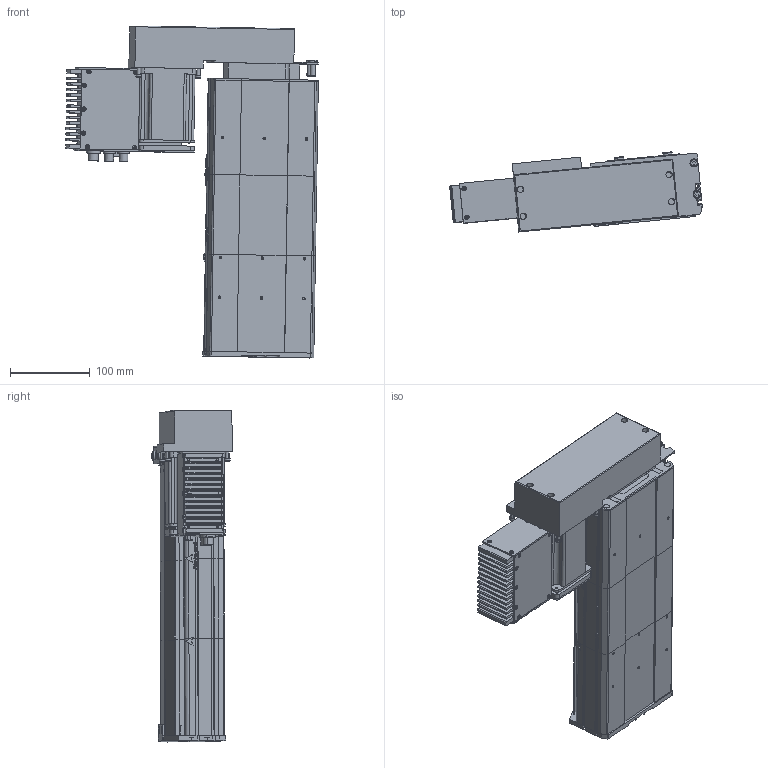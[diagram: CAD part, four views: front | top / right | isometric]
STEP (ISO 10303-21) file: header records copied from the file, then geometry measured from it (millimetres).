
FILE_DESCRIPTION (( 'STEP AP203' ), '1' );
FILE_NAME ('D14 TSH M4 BR L10 S100.STEP', '2012-10-10T13:46:42', ( '' ), ( '' ), 'SwSTEP 2.0', 'SolidWorks 2010', '' );
FILE_SCHEMA (( 'CONFIG_CONTROL_DESIGN' ));
Length unit declared in the file: millimetre
Products named in the file (28): couvercle D14_Default_2; T犨e contre le moteur_2; Moteur_2; Couvercle_2; Tôle latérale_2; couvercle D14 head_Default_2; plaque de  bout tail D14_Default_2; Vis TF 3 torkx_2; Vis CHC M8; vis CHC M7; D14 TSH M4 BR L10 S100; corp head D14_Default_2; plaque de  bout head D14 MD_Default_2; corpl tail D14_Default_2; Sub D 9cts_2; T犨e fond_2; Connecteur rond D10 3cts_2; Tôle Arrière_2; Connecteur rond D12 4cts_2; Moteur 70BLDC90A_2; Colonnette_2; Radiateur_2; Pièce26; Pièce29; Embout raccord d14; plaque de maintient D14; plaque de bout head d14 BR; vis CHC M5.5
Assembly tree (59 placements, depth 3):
  D14 TSH M4 BR L10 S100
    corpl tail D14_Default_2
    Moteur_2
      Vis TF 3 torkx_2  x26
      Tôle latérale_2  x2
      Sub D 9cts_2
      Moteur 70BLDC90A_2
      Connecteur rond D10 3cts_2  x2
      Couvercle_2
      Colonnette_2
      Tôle Arrière_2
      T犨e fond_2
      Radiateur_2
      T犨e contre le moteur_2
      Connecteur rond D12 4cts_2
    plaque de  bout head D14 MD_Default_2
    Pièce26
    Pièce29
    corp head D14_Default_2
    Embout raccord d14
      plaque de bout head d14 BR
      vis CHC M5.5  x4
      vis CHC M7  x2
      Vis CHC M8  x2
      plaque de maintient D14
    couvercle D14_Default_2
    couvercle D14 head_Default_2
    plaque de  bout tail D14_Default_2
Bounding box: 316.65 x 100.45 x 415.92 mm (x, y, z)
Volume: 2354874.7 mm3; surface area: 639764 mm2
Topology: 79 solids, 79 shells, 2566 faces, 6633 edges, 4364 vertices
Faces by surface type: plane 1385, cylinder 885, cone 150, bspline 130, torus 16
Entity records: 67838 total; most frequent: CARTESIAN_POINT 21268, ORIENTED_EDGE 8940, DIRECTION 8634, EDGE_CURVE 4470, VECTOR 2978, LINE 2978, VERTEX_POINT 2950, AXIS2_PLACEMENT_3D 2828
